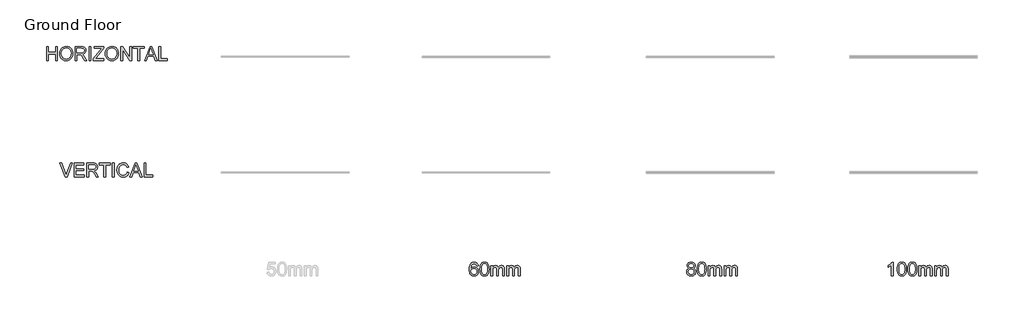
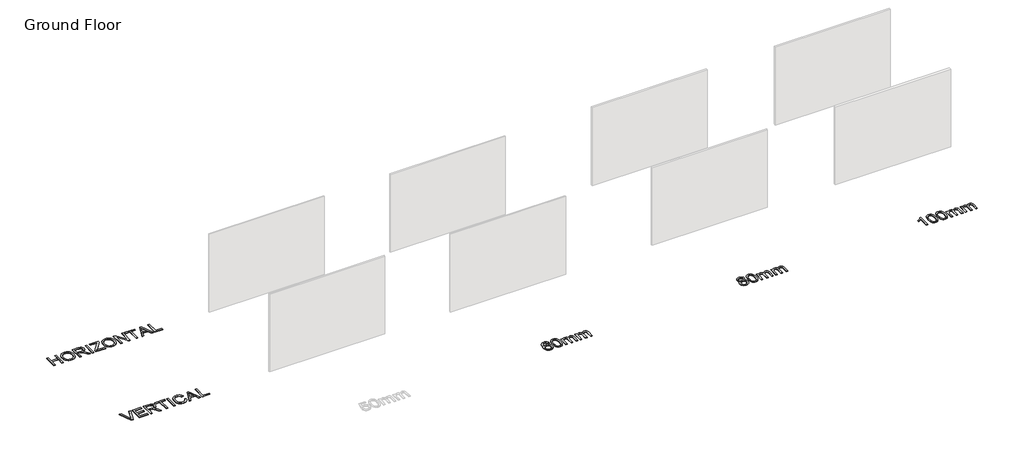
# One storey, part 14 of 14: 5 proxies.
"""IFC4 building model written with IfcOpenShell, lengths in millimetres."""

from ifc_helpers import new_model, si_unit, origin, origin_with_axes, place, context, project, spatial, polyline, outline, extrude, element, save

model = new_model("IFC4")

# Units and contexts
model_context = context("Model", 3, world=origin())
ifc_project = project(units=[si_unit("LENGTHUNIT", "METRE", prefix="MILLI")], contexts=[model_context])

# Site, building, storey
site = spatial("IfcSite", under=ifc_project)
building = spatial("IfcBuilding", under=site)
storey = spatial("IfcBuildingStorey", under=building, Name="Ground Floor", Elevation=0.0)

# Proxies
placement = place(None, origin())
element("IfcBuildingElementProxy", 1, Name="600mm Arial", ObjectType="600mm Arial", at=placement, inside=storey, context=model_context, shape_type="SweptSolid", body=[
    extrude(outline(polyline([(11472.4270523, -2153.6106576), (11432.0887915, -2133.7450298), (11416.4308141, -2121.1634656), (11403.780272, -2106.8160678), (11387.0600353, -2073.3755944), (11381.4866231, -2033.9754327), (11384.5216495, -2003.2480891), (11393.6267289, -1975.0775253), (11408.8018612, -1949.4637414), (11430.0470464, -1926.4067373), (11456.341412, -1907.35045), (11486.6640855, -1893.7388162), (11521.0150668, -1885.5718359), (11559.3943559, -1882.8495091), (11597.9575861, -1885.6362152), (11632.5660848, -1893.9963336), (11663.219852, -1907.9298641), (11689.9188878, -1927.4368069), (11711.5503491, -1950.9444664), (11727.0013929, -1976.8801471), (11736.2720192, -2005.2438489), (11739.362228, -2036.0355719), (11733.8623921, -2074.1665407), (11717.3628846, -2107.036797), (11704.9422688, -2121.2876258), (11689.6797645, -2133.8002121), (11650.6290907, -2153.6106576), (11675.3921475, -2164.1458782), (11697.0006162, -2177.5045931), (11715.4544968, -2193.6868024), (11730.7537893, -2212.692506), (11742.7605379, -2234.0986396), (11751.3367869, -2257.4821389), (11756.4825363, -2282.8430039), (11758.1977861, -2310.1812347), (11754.7948777, -2347.7603805), (11744.5861523, -2382.2125294), (11727.57161, -2413.5376813), (11703.7512508, -2441.7358362), (11674.3758735, -2465.0411606), (11640.6962769, -2481.6878209), (11602.7124609, -2491.675817), (11560.4244255, -2495.0051491), (11518.1363902, -2491.6620215), (11480.1525742, -2481.6326386), (11446.4729775, -2464.9170004), (11417.0976002, -2441.515107), (11393.277241, -2413.1192155), (11376.2626987, -2381.4215831), (11366.0539734, -2346.4222098), (11362.6510649, -2308.1210955), (11364.4352926, -2279.5366645), (11369.7879756, -2253.3802547), (11378.709114, -2229.651866), (11391.1987077, -2208.3514984), (11406.9808453, -2189.8654282), (11425.7796153, -2174.5799313), (11447.5950176, -2162.4950077), (11472.4270523, -2153.6106576)]), holes=[polyline([(11437.9932975, -2305.4723452), (11441.1386886, -2334.2958995), (11450.5748617, -2362.1997488), (11467.9940742, -2386.5351428), (11495.0885832, -2404.6533311), (11527.5357751, -2415.9105201), (11561.0130367, -2419.6629165), (11588.2546984, -2417.6901493), (11612.2957868, -2411.7718477), (11633.1363019, -2401.9080117), (11650.7762435, -2388.0986413), (11664.8109416, -2371.2450474), (11674.835726, -2352.2485409), (11680.8505966, -2331.1091217), (11682.8555535, -2307.8267899), (11680.7862173, -2284.1719777), (11674.5782086, -2262.6508809), (11664.2315275, -2243.2634998), (11649.7461739, -2226.0098342), (11631.6279857, -2211.8463774), (11610.3828005, -2201.7296225), (11586.0106183, -2195.6595696), (11558.5114391, -2193.6362186), (11531.6698491, -2195.6319785), (11507.9460589, -2201.6192579), (11487.3400686, -2211.5980571), (11469.8518783, -2225.5683758), (11455.9137492, -2242.5369328), (11445.9579427, -2261.5104467), (11439.9844588, -2282.4889175), (11437.9932975, -2305.4723452)]), polyline([(11456.8288557, -2036.1827247), (11458.4981202, -2053.4547844), (11463.5059139, -2069.0713751), (11471.8522366, -2083.0324968), (11483.5370885, -2095.3381495), (11498.4133167, -2105.381328), (11516.3337684, -2112.5550269), (11537.2984436, -2116.8592462), (11561.3073423, -2118.293986), (11584.7230313, -2116.8684433), (11605.2324525, -2112.5918151), (11622.835606, -2105.4641014), (11637.5324917, -2095.4853023), (11649.1207745, -2083.437167), (11657.3981194, -2070.1014447), (11662.3645264, -2055.4781353), (11664.0199953, -2039.5672391), (11662.3093441, -2023.0355419), (11657.1773902, -2007.8742052), (11648.6241339, -1994.0832289), (11636.6495749, -1981.662613), (11621.6215954, -1971.3941068), (11603.9080773, -1964.0594595), (11583.5090207, -1959.6586712), (11560.4244255, -1958.1917417), (11537.1604878, -1959.6264815), (11516.6648622, -1963.9307008), (11498.9375485, -1971.1043998), (11483.9785469, -1981.1475782), (11472.100557, -1993.1957136), (11463.6162785, -2006.3842831), (11458.5257114, -2020.7132868), (11456.8288557, -2036.1827247)])]), origin_with_axes(), (0.0, 0.0, 1.0), 20.0),
    extrude(outline(polyline([(11824.1222397, -2189.0744819), (11829.6588637, -2092.5974287), (11836.5796437, -2051.6843523), (11846.2687358, -2015.6549094), (11858.6847531, -1984.2147944), (11873.786309, -1957.0697016), (11891.5734035, -1934.2196312), (11912.0460365, -1915.6645831), (11935.273186, -1901.3079882), (11961.3238298, -1891.0532776), (11990.1979678, -1884.9004512), (12021.8956003, -1882.8495091), (12068.322308, -1887.7055514), (12109.8929735, -1902.2736785), (12144.657822, -1925.983673), (12170.6670791, -1958.2653181), (12190.3119776, -1998.8427022), (12205.9837506, -2047.4399138), (12216.2476583, -2109.1521184), (12219.6689609, -2189.0744819), (12214.1875191, -2284.9997121), (12207.335717, -2325.7748328), (12197.743194, -2361.7582904), (12185.4237456, -2393.212201), (12170.3911676, -2420.3986805), (12152.6454599, -2443.3177288), (12132.1866224, -2461.9693459), (12108.9318818, -2476.4225098), (12082.7984646, -2486.7461983), (12053.7863707, -2492.9404114), (12021.8956003, -2495.0051491), (11980.3985112, -2491.4182996), (11943.6103117, -2480.6577513), (11911.5310017, -2462.723504), (11884.1605813, -2437.6155578), (11857.8938068, -2392.2281167), (11839.1318251, -2335.675457), (11827.874636, -2267.9575787), (11824.1222397, -2189.0744819)]), holes=[polyline([(11899.4644723, -2188.9273291), (11901.6717642, -2254.4241198), (11908.2936401, -2307.4405138), (11919.3301, -2347.9765112), (11934.7811438, -2376.0321118), (11953.4695492, -2395.1205889), (11974.2180937, -2408.7552153), (11997.0267774, -2416.9359912), (12021.8956003, -2419.6629165), (12046.7644231, -2416.9267941), (12069.5731068, -2408.7184271), (12090.3216514, -2395.0378154), (12109.0100567, -2375.884959), (12124.4611005, -2347.7833731), (12135.4975604, -2307.2565728), (12142.1194363, -2254.3045582), (12144.3267283, -2188.9273291), (12142.1930127, -2125.1641823), (12135.791866, -2073.0812888), (12125.1232881, -2032.6786487), (12110.1872791, -2003.9562619), (12091.8115734, -1983.9342843), (12070.8239056, -1969.6328718), (12047.2242756, -1961.0520242), (12021.0126835, -1958.1917417), (11996.2726193, -1960.7117334), (11973.8502117, -1968.2717084), (11953.7454607, -1980.8716667), (11935.9583662, -1998.5116084), (11919.9922876, -2029.781578), (11908.5879457, -2071.9408546), (11901.7453406, -2124.9894383), (11899.4644723, -2188.9273291)])]), origin_with_axes(), (0.0, 0.0, 1.0), 20.0),
    extrude(outline(polyline([(12304.4289726, -2485.58737), (12304.4289726, -2042.9517534), (12379.7712052, -2042.9517534), (12379.7712052, -2115.7923885), (12402.4327361, -2082.333521), (12431.5689901, -2056.1219288), (12466.1866858, -2039.180963), (12505.2925419, -2033.5339743), (12547.1943012, -2039.2913276), (12565.0273809, -2046.4880191), (12580.7819273, -2056.5633872), (12605.8714794, -2084.2097192), (12622.2790164, -2121.0898892), (12649.7414073, -2082.7841764), (12681.0665592, -2055.422953), (12716.2544721, -2039.006219), (12755.3051458, -2033.5339743), (12785.4668709, -2035.8102442), (12811.940579, -2042.6390537), (12834.7262701, -2054.0204029), (12853.8239442, -2069.9542919), (12868.9209015, -2090.6246615), (12879.7044425, -2116.2154528), (12886.1745671, -2146.7266657), (12888.3312753, -2182.1583004), (12888.3312753, -2485.58737), (12812.9890427, -2485.58737), (12812.9890427, -2214.531916), (12811.2416032, -2176.9527702), (12805.9992848, -2151.6240948), (12796.1768355, -2134.2784587), (12780.6890035, -2120.6484308), (12760.7681935, -2111.8192629), (12737.6468101, -2108.8762069), (12716.2958588, -2110.7616022), (12696.8303027, -2116.4177879), (12679.2501419, -2125.844764), (12663.5553762, -2139.0425306), (12650.6473167, -2156.3973637), (12641.4272742, -2178.2955394), (12635.8952487, -2204.7370578), (12634.0512402, -2235.7219189), (12634.0512402, -2485.58737), (12558.7090076, -2485.58737), (12558.7090076, -2206.1442065), (12554.349606, -2163.5434714), (12548.9003539, -2146.8232348), (12541.271401, -2133.1564186), (12531.1592447, -2122.533826), (12518.2603822, -2114.9462599), (12502.5748137, -2110.3937202), (12484.102539, -2108.8762069), (12455.0766496, -2112.9229089), (12428.3316285, -2125.0630147), (12406.2587088, -2145.0022189), (12391.2491234, -2172.4462157), (12382.6406847, -2210.5220022), (12379.7712052, -2262.3565753), (12379.7712052, -2485.58737), (12304.4289726, -2485.58737)])), origin_with_axes(), (0.0, 0.0, 1.0), 20.0),
    extrude(outline(polyline([(13001.3446242, -2485.58737), (13001.3446242, -2042.9517534), (13076.6868568, -2042.9517534), (13076.6868568, -2115.7923885), (13099.3483877, -2082.333521), (13128.4846417, -2056.1219288), (13163.1023375, -2039.180963), (13202.2081936, -2033.5339743), (13244.1099528, -2039.2913276), (13261.9430325, -2046.4880191), (13277.697579, -2056.5633872), (13302.7871311, -2084.2097192), (13319.194668, -2121.0898892), (13346.657059, -2082.7841764), (13377.9822109, -2055.422953), (13413.1701237, -2039.006219), (13452.2207975, -2033.5339743), (13482.3825226, -2035.8102442), (13508.8562307, -2042.6390537), (13531.6419217, -2054.0204029), (13550.7395958, -2069.9542919), (13565.8365532, -2090.6246615), (13576.6200942, -2116.2154528), (13583.0902188, -2146.7266657), (13585.246927, -2182.1583004), (13585.246927, -2485.58737), (13509.9046943, -2485.58737), (13509.9046943, -2214.531916), (13508.1572549, -2176.9527702), (13502.9149364, -2151.6240948), (13493.0924872, -2134.2784587), (13477.6046552, -2120.6484308), (13457.6838451, -2111.8192629), (13434.5624617, -2108.8762069), (13413.2115104, -2110.7616022), (13393.7459544, -2116.4177879), (13376.1657935, -2125.844764), (13360.4710279, -2139.0425306), (13347.5629684, -2156.3973637), (13338.3429259, -2178.2955394), (13332.8109004, -2204.7370578), (13330.9668919, -2235.7219189), (13330.9668919, -2485.58737), (13255.6246593, -2485.58737), (13255.6246593, -2206.1442065), (13251.2652576, -2163.5434714), (13245.8160056, -2146.8232348), (13238.1870527, -2133.1564186), (13228.0748964, -2122.533826), (13215.1760339, -2114.9462599), (13199.4904653, -2110.3937202), (13181.0181907, -2108.8762069), (13151.9923012, -2112.9229089), (13125.2472802, -2125.0630147), (13103.1743605, -2145.0022189), (13088.1647751, -2172.4462157), (13079.5563364, -2210.5220022), (13076.6868568, -2262.3565753), (13076.6868568, -2485.58737), (13001.3446242, -2485.58737)])), origin_with_axes(), (0.0, 0.0, 1.0), 20.0),
])
element("IfcBuildingElementProxy", 2, Name="600mm Arial", ObjectType="600mm Arial", at=placement, inside=storey, context=model_context, shape_type="SweptSolid", body=[
    extrude(outline(polyline([(2240.452797, -2042.9517534), (2165.1105644, -2052.3695325), (2152.9704585, -2015.02951), (2136.5629215, -1989.5352877), (2120.3669167, -1975.8224863), (2102.3866842, -1966.0276282), (2082.622224, -1960.1507133), (2061.0735361, -1958.1917417), (2026.0511702, -1962.7534785), (1993.0889434, -1976.4386887), (1964.7804239, -2005.262243), (1941.6590405, -2044.9383162), (1932.622939, -2070.2439989), (1926.0424498, -2101.0587146), (1920.2483084, -2179.2152444), (1950.4698143, -2143.9537552), (1986.6877967, -2119.1033264), (2026.8789047, -2104.3696525), (2069.0197872, -2099.4584279), (2105.2193755, -2102.8153511), (2138.6230607, -2112.8861207), (2169.2308427, -2129.6707367), (2197.0427215, -2153.1691992), (2220.1549079, -2181.9835564), (2236.6636124, -2214.715857), (2246.5688351, -2251.3661007), (2249.870576, -2291.9342877), (2248.3162746, -2319.4012772), (2243.6533703, -2345.8841823), (2235.8818632, -2371.3830031), (2225.0017532, -2395.8977396), (2211.3993164, -2418.5132852), (2195.460829, -2438.3145336), (2177.1862908, -2455.3014848), (2156.5757021, -2469.4741386), (2134.070521, -2480.6439557), (2110.1122061, -2488.6223965), (2084.7007573, -2493.4094609), (2057.8361746, -2495.0051491), (2012.9223815, -2490.7745061), (1972.358793, -2478.0825773), (1936.1454091, -2456.9293626), (1904.2822298, -2427.314862), (1878.3051624, -2387.9882767), (1859.7501143, -2337.6988079), (1848.6170854, -2276.4464558), (1844.9060758, -2204.2312201), (1849.0263541, -2123.26959), (1861.3871891, -2054.1721543), (1881.9885809, -1996.9389129), (1895.3794855, -1972.771365), (1910.8305293, -1951.5698658), (1942.0913018, -1921.5047098), (1978.3368754, -1900.0295983), (2019.56725, -1887.1445314), (2065.7824257, -1882.8495091), (2100.4828949, -1885.5074565), (2131.8908202, -1893.4812988), (2160.0062017, -1906.7710358), (2184.8290393, -1925.3766678), (2205.6879484, -1948.6727951), (2221.9115444, -1976.0340185), (2233.4998273, -2007.4603379), (2240.452797, -2042.9517534)]), holes=[polyline([(1920.2483084, -2290.7570654), (1924.60771, -2324.1423564), (1937.6859149, -2356.0193313), (1957.9930011, -2383.4265399), (1984.0390463, -2403.4025323), (2015.4745628, -2415.5978204), (2051.9500626, -2419.6629165), (2078.1386622, -2417.5567921), (2101.6693143, -2411.2384188), (2122.542019, -2400.7077967), (2140.7567763, -2385.9649257), (2155.5318369, -2367.6076142), (2166.0854516, -2346.2336702), (2172.4176205, -2321.843094), (2174.5283434, -2294.4358853), (2172.4452116, -2268.100133), (2166.1958162, -2244.7166337), (2155.7801573, -2224.2853874), (2141.1982347, -2206.8063941), (2122.9282951, -2192.8038856), (2101.4485851, -2182.8020939), (2076.7591047, -2176.8010188), (2048.8598539, -2174.8006605), (2023.0207422, -2176.8010188), (1999.2141786, -2182.8020939), (1977.440163, -2192.8038856), (1957.6986955, -2206.8063941), (1941.3141511, -2224.0554611), (1929.6109051, -2243.7969287), (1922.5889576, -2266.0307968), (1920.2483084, -2290.7570654)])]), origin_with_axes(), (0.0, 0.0, 1.0), 20.0),
    extrude(outline(polyline([(2315.7950296, -2189.0744819), (2321.3316536, -2092.5974287), (2328.2524336, -2051.6843523), (2337.9415257, -2015.6549094), (2350.357543, -1984.2147944), (2365.4590989, -1957.0697016), (2383.2461934, -1934.2196312), (2403.7188264, -1915.6645831), (2426.9459759, -1901.3079882), (2452.9966197, -1891.0532776), (2481.8707578, -1884.9004512), (2513.5683902, -1882.8495091), (2559.995098, -1887.7055514), (2601.5657634, -1902.2736785), (2636.330612, -1925.983673), (2662.339869, -1958.2653181), (2681.9847676, -1998.8427022), (2697.6565406, -2047.4399138), (2707.9204482, -2109.1521184), (2711.3417508, -2189.0744819), (2705.8603091, -2284.9997121), (2699.0085069, -2325.7748328), (2689.4159839, -2361.7582904), (2677.0965356, -2393.212201), (2662.0639575, -2420.3986805), (2644.3182498, -2443.3177288), (2623.8594123, -2461.9693459), (2600.6046717, -2476.4225098), (2574.4712545, -2486.7461983), (2545.4591606, -2492.9404114), (2513.5683902, -2495.0051491), (2472.0713011, -2491.4182996), (2435.2831016, -2480.6577513), (2403.2037916, -2462.723504), (2375.8333712, -2437.6155578), (2349.5665967, -2392.2281167), (2330.804615, -2335.675457), (2319.5474259, -2267.9575787), (2315.7950296, -2189.0744819)]), holes=[polyline([(2391.1372622, -2188.9273291), (2393.3445542, -2254.4241198), (2399.9664301, -2307.4405138), (2411.0028899, -2347.9765112), (2426.4539337, -2376.0321118), (2445.1423391, -2395.1205889), (2465.8908836, -2408.7552153), (2488.6995673, -2416.9359912), (2513.5683902, -2419.6629165), (2538.4372131, -2416.9267941), (2561.2458968, -2408.7184271), (2581.9944413, -2395.0378154), (2600.6828466, -2375.884959), (2616.1338904, -2347.7833731), (2627.1703503, -2307.2565728), (2633.7922262, -2254.3045582), (2635.9995182, -2188.9273291), (2633.8658026, -2125.1641823), (2627.4646559, -2073.0812888), (2616.796078, -2032.6786487), (2601.860069, -2003.9562619), (2583.4843634, -1983.9342843), (2562.4966955, -1969.6328718), (2538.8970656, -1961.0520242), (2512.6854734, -1958.1917417), (2487.9454092, -1960.7117334), (2465.5230016, -1968.2717084), (2445.4182506, -1980.8716667), (2427.6311561, -1998.5116084), (2411.6650775, -2029.781578), (2400.2607357, -2071.9408546), (2393.4181306, -2124.9894383), (2391.1372622, -2188.9273291)])]), origin_with_axes(), (0.0, 0.0, 1.0), 20.0),
    extrude(outline(polyline([(2796.1017625, -2485.58737), (2796.1017625, -2042.9517534), (2871.4439951, -2042.9517534), (2871.4439951, -2115.7923885), (2894.105526, -2082.333521), (2923.24178, -2056.1219288), (2957.8594758, -2039.180963), (2996.9653319, -2033.5339743), (3038.8670911, -2039.2913276), (3056.7001708, -2046.4880191), (3072.4547173, -2056.5633872), (3097.5442693, -2084.2097192), (3113.9518063, -2121.0898892), (3141.4141973, -2082.7841764), (3172.7393491, -2055.422953), (3207.927262, -2039.006219), (3246.9779358, -2033.5339743), (3277.1396609, -2035.8102442), (3303.6133689, -2042.6390537), (3326.39906, -2054.0204029), (3345.4967341, -2069.9542919), (3360.5936915, -2090.6246615), (3371.3772324, -2116.2154528), (3377.847357, -2146.7266657), (3380.0040652, -2182.1583004), (3380.0040652, -2485.58737), (3304.6618326, -2485.58737), (3304.6618326, -2214.531916), (3302.9143931, -2176.9527702), (3297.6720747, -2151.6240948), (3287.8496254, -2134.2784587), (3272.3617934, -2120.6484308), (3252.4409834, -2111.8192629), (3229.3196, -2108.8762069), (3207.9686487, -2110.7616022), (3188.5030926, -2116.4177879), (3170.9229318, -2125.844764), (3155.2281662, -2139.0425306), (3142.3201067, -2156.3973637), (3133.1000642, -2178.2955394), (3127.5680387, -2204.7370578), (3125.7240302, -2235.7219189), (3125.7240302, -2485.58737), (3050.3817976, -2485.58737), (3050.3817976, -2206.1442065), (3046.0223959, -2163.5434714), (3040.5731439, -2146.8232348), (3032.944191, -2133.1564186), (3022.8320346, -2122.533826), (3009.9331722, -2114.9462599), (2994.2476036, -2110.3937202), (2975.7753289, -2108.8762069), (2946.7494395, -2112.9229089), (2920.0044185, -2125.0630147), (2897.9314987, -2145.0022189), (2882.9219133, -2172.4462157), (2874.3134747, -2210.5220022), (2871.4439951, -2262.3565753), (2871.4439951, -2485.58737), (2796.1017625, -2485.58737)])), origin_with_axes(), (0.0, 0.0, 1.0), 20.0),
    extrude(outline(polyline([(3493.0174141, -2485.58737), (3493.0174141, -2042.9517534), (3568.3596468, -2042.9517534), (3568.3596468, -2115.7923885), (3591.0211777, -2082.333521), (3620.1574317, -2056.1219288), (3654.7751274, -2039.180963), (3693.8809835, -2033.5339743), (3735.7827428, -2039.2913276), (3753.6158225, -2046.4880191), (3769.3703689, -2056.5633872), (3794.459921, -2084.2097192), (3810.867458, -2121.0898892), (3838.3298489, -2082.7841764), (3869.6550008, -2055.422953), (3904.8429136, -2039.006219), (3943.8935874, -2033.5339743), (3974.0553125, -2035.8102442), (4000.5290206, -2042.6390537), (4023.3147117, -2054.0204029), (4042.4123857, -2069.9542919), (4057.5093431, -2090.6246615), (4068.2928841, -2116.2154528), (4074.7630087, -2146.7266657), (4076.9197169, -2182.1583004), (4076.9197169, -2485.58737), (4001.5774843, -2485.58737), (4001.5774843, -2214.531916), (3999.8300448, -2176.9527702), (3994.5877264, -2151.6240948), (3984.7652771, -2134.2784587), (3969.2774451, -2120.6484308), (3949.3566351, -2111.8192629), (3926.2352517, -2108.8762069), (3904.8843004, -2110.7616022), (3885.4187443, -2116.4177879), (3867.8385835, -2125.844764), (3852.1438178, -2139.0425306), (3839.2357583, -2156.3973637), (3830.0157158, -2178.2955394), (3824.4836903, -2204.7370578), (3822.6396818, -2235.7219189), (3822.6396818, -2485.58737), (3747.2974492, -2485.58737), (3747.2974492, -2206.1442065), (3742.9380476, -2163.5434714), (3737.4887955, -2146.8232348), (3729.8598426, -2133.1564186), (3719.7476863, -2122.533826), (3706.8488238, -2114.9462599), (3691.1632553, -2110.3937202), (3672.6909806, -2108.8762069), (3643.6650912, -2112.9229089), (3616.9200701, -2125.0630147), (3594.8471504, -2145.0022189), (3579.837565, -2172.4462157), (3571.2291263, -2210.5220022), (3568.3596468, -2262.3565753), (3568.3596468, -2485.58737), (3493.0174141, -2485.58737)])), origin_with_axes(), (0.0, 0.0, 1.0), 20.0),
])
element("IfcBuildingElementProxy", 3, Name="600mm Arial", ObjectType="600mm Arial", at=placement, inside=storey, context=model_context, shape_type="SweptSolid", body=[
    extrude(outline(polyline([(20401.7887855, -2485.58737), (20326.4465529, -2485.58737), (20326.4465529, -2015.8756386), (20294.9926423, -2041.3146785), (20255.0774458, -2066.7169303), (20213.1756866, -2088.9186087), (20175.7620877, -2104.7559286), (20175.7620877, -2033.5339743), (20234.9359066, -2001.3442998), (20286.2002626, -1963.0477841), (20326.6120998, -1922.3232472), (20353.2283621, -1882.8495091), (20401.7887855, -1882.8495091), (20401.7887855, -2485.58737)])), origin_with_axes(), (0.0, 0.0, 1.0), 20.0),
    extrude(outline(polyline([(20580.726588, -2189.0744819), (20586.263212, -2092.5974287), (20593.183992, -2051.6843523), (20602.8730841, -2015.6549094), (20615.2891014, -1984.2147944), (20630.3906573, -1957.0697016), (20648.1777518, -1934.2196312), (20668.6503848, -1915.6645831), (20691.8775343, -1901.3079882), (20717.9281781, -1891.0532776), (20746.8023162, -1884.9004512), (20778.4999486, -1882.8495091), (20824.9266564, -1887.7055514), (20866.4973218, -1902.2736785), (20901.2621704, -1925.983673), (20927.2714274, -1958.2653181), (20946.916326, -1998.8427022), (20962.588099, -2047.4399138), (20972.8520066, -2109.1521184), (20976.2733092, -2189.0744819), (20970.7918674, -2284.9997121), (20963.9400653, -2325.7748328), (20954.3475423, -2361.7582904), (20942.0280939, -2393.212201), (20926.9955159, -2420.3986805), (20909.2498082, -2443.3177288), (20888.7909707, -2461.9693459), (20865.5362301, -2476.4225098), (20839.4028129, -2486.7461983), (20810.390719, -2492.9404114), (20778.4999486, -2495.0051491), (20737.0028595, -2491.4182996), (20700.21466, -2480.6577513), (20668.13535, -2462.723504), (20640.7649296, -2437.6155578), (20614.4981551, -2392.2281167), (20595.7361734, -2335.675457), (20584.4789843, -2267.9575787), (20580.726588, -2189.0744819)]), holes=[polyline([(20656.0688206, -2188.9273291), (20658.2761125, -2254.4241198), (20664.8979885, -2307.4405138), (20675.9344483, -2347.9765112), (20691.3854921, -2376.0321118), (20710.0738975, -2395.1205889), (20730.822442, -2408.7552153), (20753.6311257, -2416.9359912), (20778.4999486, -2419.6629165), (20803.3687714, -2416.9267941), (20826.1774551, -2408.7184271), (20846.9259997, -2395.0378154), (20865.614405, -2375.884959), (20881.0654488, -2347.7833731), (20892.1019087, -2307.2565728), (20898.7237846, -2254.3045582), (20900.9310766, -2188.9273291), (20898.797361, -2125.1641823), (20892.3962143, -2073.0812888), (20881.7276364, -2032.6786487), (20866.7916274, -2003.9562619), (20848.4159217, -1983.9342843), (20827.4282539, -1969.6328718), (20803.8286239, -1961.0520242), (20777.6170318, -1958.1917417), (20752.8769676, -1960.7117334), (20730.45456, -1968.2717084), (20710.349809, -1980.8716667), (20692.5627145, -1998.5116084), (20676.5966359, -2029.781578), (20665.1922941, -2071.9408546), (20658.3496889, -2124.9894383), (20656.0688206, -2188.9273291)])]), origin_with_axes(), (0.0, 0.0, 1.0), 20.0),
    extrude(outline(polyline([(21042.1977627, -2189.0744819), (21047.7343867, -2092.5974287), (21054.6551668, -2051.6843523), (21064.3442588, -2015.6549094), (21076.7602762, -1984.2147944), (21091.8618321, -1957.0697016), (21109.6489265, -1934.2196312), (21130.1215596, -1915.6645831), (21153.348709, -1901.3079882), (21179.3993528, -1891.0532776), (21208.2734909, -1884.9004512), (21239.9711233, -1882.8495091), (21286.3978311, -1887.7055514), (21327.9684966, -1902.2736785), (21362.7333451, -1925.983673), (21388.7426022, -1958.2653181), (21408.3875007, -1998.8427022), (21424.0592737, -2047.4399138), (21434.3231814, -2109.1521184), (21437.7444839, -2189.0744819), (21432.2630422, -2284.9997121), (21425.41124, -2325.7748328), (21415.818717, -2361.7582904), (21403.4992687, -2393.212201), (21388.4666907, -2420.3986805), (21370.7209829, -2443.3177288), (21350.2621455, -2461.9693459), (21327.0074049, -2476.4225098), (21300.8739876, -2486.7461983), (21271.8618938, -2492.9404114), (21239.9711233, -2495.0051491), (21198.4740343, -2491.4182996), (21161.6858347, -2480.6577513), (21129.6065248, -2462.723504), (21102.2361043, -2437.6155578), (21075.9693299, -2392.2281167), (21057.2073481, -2335.675457), (21045.9501591, -2267.9575787), (21042.1977627, -2189.0744819)]), holes=[polyline([(21117.5399953, -2188.9273291), (21119.7472873, -2254.4241198), (21126.3691632, -2307.4405138), (21137.4056231, -2347.9765112), (21152.8566669, -2376.0321118), (21171.5450722, -2395.1205889), (21192.2936167, -2408.7552153), (21215.1023004, -2416.9359912), (21239.9711233, -2419.6629165), (21264.8399462, -2416.9267941), (21287.6486299, -2408.7184271), (21308.3971744, -2395.0378154), (21327.0855798, -2375.884959), (21342.5366236, -2347.7833731), (21353.5730834, -2307.2565728), (21360.1949593, -2254.3045582), (21362.4022513, -2188.9273291), (21360.2685357, -2125.1641823), (21353.867389, -2073.0812888), (21343.1988112, -2032.6786487), (21328.2628022, -2003.9562619), (21309.8870965, -1983.9342843), (21288.8994287, -1969.6328718), (21265.2997987, -1961.0520242), (21239.0882065, -1958.1917417), (21214.3481424, -1960.7117334), (21191.9257347, -1968.2717084), (21171.8209837, -1980.8716667), (21154.0338892, -1998.5116084), (21138.0678107, -2029.781578), (21126.6634688, -2071.9408546), (21119.8208637, -2124.9894383), (21117.5399953, -2188.9273291)])]), origin_with_axes(), (0.0, 0.0, 1.0), 20.0),
    extrude(outline(polyline([(21522.5044956, -2485.58737), (21522.5044956, -2042.9517534), (21597.8467282, -2042.9517534), (21597.8467282, -2115.7923885), (21620.5082591, -2082.333521), (21649.6445131, -2056.1219288), (21684.2622089, -2039.180963), (21723.368065, -2033.5339743), (21765.2698242, -2039.2913276), (21783.1029039, -2046.4880191), (21798.8574504, -2056.5633872), (21823.9470025, -2084.2097192), (21840.3545394, -2121.0898892), (21867.8169304, -2082.7841764), (21899.1420823, -2055.422953), (21934.3299951, -2039.006219), (21973.3806689, -2033.5339743), (22003.542394, -2035.8102442), (22030.0161021, -2042.6390537), (22052.8017931, -2054.0204029), (22071.8994672, -2069.9542919), (22086.9964246, -2090.6246615), (22097.7799656, -2116.2154528), (22104.2500902, -2146.7266657), (22106.4067984, -2182.1583004), (22106.4067984, -2485.58737), (22031.0645657, -2485.58737), (22031.0645657, -2214.531916), (22029.3171263, -2176.9527702), (22024.0748078, -2151.6240948), (22014.2523586, -2134.2784587), (21998.7645266, -2120.6484308), (21978.8437165, -2111.8192629), (21955.7223331, -2108.8762069), (21934.3713818, -2110.7616022), (21914.9058258, -2116.4177879), (21897.3256649, -2125.844764), (21881.6308993, -2139.0425306), (21868.7228398, -2156.3973637), (21859.5027973, -2178.2955394), (21853.9707718, -2204.7370578), (21852.1267633, -2235.7219189), (21852.1267633, -2485.58737), (21776.7845307, -2485.58737), (21776.7845307, -2206.1442065), (21772.425129, -2163.5434714), (21766.975877, -2146.8232348), (21759.3469241, -2133.1564186), (21749.2347678, -2122.533826), (21736.3359053, -2114.9462599), (21720.6503367, -2110.3937202), (21702.1780621, -2108.8762069), (21673.1521726, -2112.9229089), (21646.4071516, -2125.0630147), (21624.3342319, -2145.0022189), (21609.3246465, -2172.4462157), (21600.7162078, -2210.5220022), (21597.8467282, -2262.3565753), (21597.8467282, -2485.58737), (21522.5044956, -2485.58737)])), origin_with_axes(), (0.0, 0.0, 1.0), 20.0),
    extrude(outline(polyline([(22219.4201473, -2485.58737), (22219.4201473, -2042.9517534), (22294.7623799, -2042.9517534), (22294.7623799, -2115.7923885), (22317.4239108, -2082.333521), (22346.5601648, -2056.1219288), (22381.1778606, -2039.180963), (22420.2837166, -2033.5339743), (22462.1854759, -2039.2913276), (22480.0185556, -2046.4880191), (22495.7731021, -2056.5633872), (22520.8626541, -2084.2097192), (22537.2701911, -2121.0898892), (22564.732582, -2082.7841764), (22596.0577339, -2055.422953), (22631.2456468, -2039.006219), (22670.2963206, -2033.5339743), (22700.4580456, -2035.8102442), (22726.9317537, -2042.6390537), (22749.7174448, -2054.0204029), (22768.8151189, -2069.9542919), (22783.9120762, -2090.6246615), (22794.6956172, -2116.2154528), (22801.1657418, -2146.7266657), (22803.32245, -2182.1583004), (22803.32245, -2485.58737), (22727.9802174, -2485.58737), (22727.9802174, -2214.531916), (22726.2327779, -2176.9527702), (22720.9904595, -2151.6240948), (22711.1680102, -2134.2784587), (22695.6801782, -2120.6484308), (22675.7593682, -2111.8192629), (22652.6379848, -2108.8762069), (22631.2870335, -2110.7616022), (22611.8214774, -2116.4177879), (22594.2413166, -2125.844764), (22578.546551, -2139.0425306), (22565.6384915, -2156.3973637), (22556.418449, -2178.2955394), (22550.8864235, -2204.7370578), (22549.042415, -2235.7219189), (22549.042415, -2485.58737), (22473.7001823, -2485.58737), (22473.7001823, -2206.1442065), (22469.3407807, -2163.5434714), (22463.8915286, -2146.8232348), (22456.2625758, -2133.1564186), (22446.1504194, -2122.533826), (22433.251557, -2114.9462599), (22417.5659884, -2110.3937202), (22399.0937137, -2108.8762069), (22370.0678243, -2112.9229089), (22343.3228033, -2125.0630147), (22321.2498835, -2145.0022189), (22306.2402981, -2172.4462157), (22297.6318594, -2210.5220022), (22294.7623799, -2262.3565753), (22294.7623799, -2485.58737), (22219.4201473, -2485.58737)])), origin_with_axes(), (0.0, 0.0, 1.0), 20.0),
])
element("IfcBuildingElementProxy", 4, Name="600mm Arial", ObjectType="600mm Arial", at=placement, inside=storey, context=model_context, shape_type="SweptSolid", body=[
    extrude(outline(polyline([(-15825.7847773, 1851.9959966), (-16065.6438382, 2454.7338575), (-15985.0041048, 2454.7338575), (-15824.4604021, 2020.4859504), (-15791.9396338, 1922.6293397), (-15759.8603238, 2020.4859504), (-15598.8751627, 2454.7338575), (-15518.2354294, 2454.7338575), (-15747.9409471, 1851.9959966), (-15825.7847773, 1851.9959966)])), origin_with_axes(), (0.0, 0.0, 1.0), 20.0),
    extrude(outline(polyline([(-15448.1906975, 1851.9959966), (-15448.1906975, 2454.7338575), (-15014.97286, 2454.7338575), (-15014.97286, 2379.3916249), (-15372.8484649, 2379.3916249), (-15372.8484649, 2200.4538225), (-15033.8084181, 2200.4538225), (-15033.8084181, 2125.1115898), (-15372.8484649, 2125.1115898), (-15372.8484649, 1927.3382292), (-15005.5550809, 1927.3382292), (-15005.5550809, 1851.9959966), (-15448.1906975, 1851.9959966)])), origin_with_axes(), (0.0, 0.0, 1.0), 20.0),
    extrude(outline(polyline([(-14892.541732, 1851.9959966), (-14892.541732, 2454.7338575), (-14632.8170434, 2454.7338575), (-14563.0114348, 2450.6687615), (-14512.2253253, 2438.4734733), (-14492.6264121, 2428.7797828), (-14475.106032, 2415.9590952), (-14459.6641853, 2400.0114107), (-14446.3008718, 2380.9367293), (-14435.5173308, 2359.7605219), (-14427.8148016, 2337.5082598), (-14423.193284, 2314.1799427), (-14421.6527781, 2289.7755709), (-14424.2049595, 2258.818301), (-14431.8615035, 2230.3994169), (-14444.6224102, 2204.5189185), (-14462.4876796, 2181.1768059), (-14485.6872379, 2161.1180401), (-14514.4510114, 2145.0875822), (-14548.7790001, 2133.0854321), (-14588.6712039, 2125.1115898), (-14563.8391693, 2108.8879939), (-14545.8497397, 2092.8851271), (-14514.9844403, 2056.2808685), (-14484.7813285, 2015.3356025), (-14384.2759674, 1851.9959966), (-14471.8318823, 1851.9959966), (-14550.2643237, 1976.9287222), (-14606.9181509, 2059.6285947), (-14627.9793951, 2083.7432595), (-14646.7229828, 2098.6976626), (-14682.5546891, 2113.0450604), (-14726.2590701, 2115.6938108), (-14817.1994994, 2115.6938108), (-14817.1994994, 1851.9959966), (-14892.541732, 1851.9959966)]), holes=[polyline([(-14817.1994994, 2191.0360434), (-14648.5623928, 2191.0360434), (-14600.1307281, 2193.7031878), (-14562.5515823, 2201.7046212), (-14534.2614569, 2215.5737725), (-14513.6968533, 2235.8440704), (-14501.1704714, 2260.3634054), (-14496.9950107, 2286.9796677), (-14498.986172, 2306.2474872), (-14504.9596559, 2323.731079), (-14514.9154624, 2339.4304432), (-14528.8535915, 2353.3455796), (-14547.09594, 2364.7407245), (-14569.9644045, 2372.8801136), (-14597.4589851, 2377.7637471), (-14629.5796818, 2379.3916249), (-14817.1994994, 2379.3916249), (-14817.1994994, 2191.0360434)])]), origin_with_axes(), (0.0, 0.0, 1.0), 20.0),
    extrude(outline(polyline([(-14139.1194058, 1851.9959966), (-14139.1194058, 2379.3916249), (-14336.8927664, 2379.3916249), (-14336.8927664, 2454.7338575), (-13866.0038126, 2454.7338575), (-13866.0038126, 2379.3916249), (-14063.7771732, 2379.3916249), (-14063.7771732, 1851.9959966), (-14139.1194058, 1851.9959966)])), origin_with_axes(), (0.0, 0.0, 1.0), 20.0),
    extrude(outline(polyline([(-13771.8260219, 1851.9959966), (-13771.8260219, 2454.7338575), (-13696.4837892, 2454.7338575), (-13696.4837892, 1851.9959966), (-13771.8260219, 1851.9959966)])), origin_with_axes(), (0.0, 0.0, 1.0), 20.0),
    extrude(outline(polyline([(-13121.9992656, 2066.2504706), (-13046.657033, 2046.8263013), (-13061.5654508, 1999.9719307), (-13081.4218815, 1959.0312631), (-13106.226325, 1924.0042987), (-13135.9787814, 1894.8910373), (-13170.0078659, 1872.0041786), (-13207.6421941, 1855.6564225), (-13248.8817657, 1845.8477688), (-13293.7265809, 1842.5782175), (-13339.6704436, 1845.052224), (-13381.1169489, 1852.4742432), (-13418.0660968, 1864.8442753), (-13450.5178873, 1882.1623202), (-13478.9183773, 1904.1708606), (-13503.7136238, 1930.612379), (-13524.9036267, 1961.4868754), (-13542.4883861, 1996.7943499), (-13556.2977565, 2035.0080922), (-13566.1615925, 2074.6013919), (-13572.0798941, 2115.5742491), (-13574.0526613, 2157.9266638), (-13571.8223767, 2203.3692873), (-13565.1315229, 2245.8136725), (-13553.9800999, 2285.2598194), (-13538.3681077, 2321.7077281), (-13518.6450343, 2354.5549917), (-13495.1603674, 2383.1992036), (-13467.9141071, 2407.6403636), (-13436.9062534, 2427.8784719), (-13403.1898686, 2443.7479814), (-13367.8180148, 2455.0833454), (-13330.7906919, 2461.8845638), (-13292.1079001, 2464.1516366), (-13249.0151229, 2461.2177777), (-13209.4999981, 2452.416201), (-13173.5625257, 2437.7469064), (-13141.2027057, 2417.209894), (-13112.953967, 2391.3477898), (-13089.3497385, 2360.7032196), (-13070.3900202, 2325.2761834), (-13056.074812, 2285.0666813), (-13131.4170447, 2267.11404), (-13143.281239, 2296.7423362), (-13157.5366663, 2322.057216), (-13174.1833266, 2343.0586794), (-13193.2212198, 2359.7467264), (-13214.7607107, 2372.4616478), (-13238.9121636, 2381.5437346), (-13265.6755788, 2386.9929866), (-13295.0509561, 2388.809404), (-13328.8501144, 2386.7952501), (-13359.7613991, 2380.7527883), (-13387.78481, 2370.6820187), (-13412.9203474, 2356.5829412), (-13434.8507128, 2339.0901523), (-13453.2586081, 2318.8382485), (-13468.1440334, 2295.8272297), (-13479.5069885, 2270.0570959), (-13493.9095686, 2214.9115849), (-13498.7104286, 2158.0738166), (-13493.0266518, 2088.4705431), (-13485.9219308, 2057.2005735), (-13475.9753213, 2028.2850487), (-13463.0258751, 2002.2987843), (-13446.9126437, 1979.8165958), (-13427.6356272, 1960.8384834), (-13405.1948255, 1945.364447), (-13380.680089, 1933.3576984), (-13355.1812682, 1924.7814494), (-13328.6983631, 1919.6357), (-13301.2313736, 1917.9204502), (-13268.4760805, 1920.2565008), (-13238.3419466, 1927.2646528), (-13210.8289718, 1938.9449062), (-13185.9371563, 1955.2972609), (-13164.2551112, 1976.2481405), (-13146.3714478, 2001.7239687), (-13132.2861659, 2031.7247454), (-13121.9992656, 2066.2504706)])), origin_with_axes(), (0.0, 0.0, 1.0), 20.0),
    extrude(outline(polyline([(-13013.2533478, 1851.9959966), (-12772.658523, 2454.7338575), (-12708.499903, 2454.7338575), (-12467.9050782, 1851.9959966), (-12547.5147419, 1851.9959966), (-12616.5294042, 2040.3515782), (-12864.7761745, 2040.3515782), (-12933.643684, 1851.9959966), (-13013.2533478, 1851.9959966)]), holes=[polyline([(-12837.1114485, 2115.6938108), (-12644.0469774, 2115.6938108), (-12698.3463599, 2263.8766784), (-12740.579213, 2379.3916249), (-12778.1031765, 2276.8261247), (-12837.1114485, 2115.6938108)])]), origin_with_axes(), (0.0, 0.0, 1.0), 20.0),
    extrude(outline(polyline([(-12387.4124976, 1851.9959966), (-12387.4124976, 2454.7338575), (-12312.070265, 2454.7338575), (-12312.070265, 1927.3382292), (-12010.7013345, 1927.3382292), (-12010.7013345, 1851.9959966), (-12387.4124976, 1851.9959966)])), origin_with_axes(), (0.0, 0.0, 1.0), 20.0),
])
element("IfcBuildingElementProxy", 5, Name="600mm Arial", ObjectType="600mm Arial", at=placement, inside=storey, context=model_context, shape_type="SweptSolid", body=[
    extrude(outline(polyline([(-16653.6664193, 6956.7959966), (-16653.6664193, 7559.5338575), (-16578.3241867, 7559.5338575), (-16578.3241867, 7314.6716015), (-16258.1196981, 7314.6716015), (-16258.1196981, 7559.5338575), (-16182.7774654, 7559.5338575), (-16182.7774654, 6956.7959966), (-16258.1196981, 6956.7959966), (-16258.1196981, 7239.3293689), (-16578.3241867, 7239.3293689), (-16578.3241867, 6956.7959966), (-16653.6664193, 6956.7959966)])), origin_with_axes(), (0.0, 0.0, 1.0), 20.0),
    extrude(outline(polyline([(-16079.1818956, 7250.218676), (-16074.1603064, 7320.9163984), (-16059.0955387, 7383.5023228), (-16033.9875925, 7437.9764493), (-16017.6674275, 7462.1715882), (-15998.8364679, 7484.3387777), (-15955.7482892, 7521.3569035), (-15906.8291809, 7547.7984219), (-15852.0791429, 7563.6633329), (-15791.4981754, 7568.9516366), (-15750.9483825, 7566.4684331), (-15712.4403346, 7559.0188227), (-15675.9740318, 7546.6028054), (-15641.5494741, 7529.2203811), (-15610.1323518, 7507.3957818), (-15582.6883549, 7481.6532391), (-15559.2174836, 7451.9927533), (-15539.7197379, 7418.4143242), (-15524.3974528, 7381.681307), (-15513.4529634, 7342.5570568), (-15506.8862698, 7301.0415736), (-15504.6973719, 7257.1348575), (-15507.0012329, 7212.6487272), (-15513.9128159, 7170.572224), (-15525.4321209, 7130.9053479), (-15541.5591479, 7093.6480988), (-15561.9122192, 7059.7845612), (-15586.1096575, 7030.2988193), (-15614.1514626, 7005.1908731), (-15646.0376345, 6984.4607227), (-15680.512776, 6968.2371267), (-15716.3214897, 6956.6488438), (-15753.4637756, 6949.6958741), (-15791.9396338, 6947.3782175), (-15833.1975995, 6949.9395959), (-15872.2114851, 6957.6237311), (-15908.9812905, 6970.4306231), (-15943.5070158, 6988.3602718), (-15974.88735, 7010.7183001), (-16002.2209822, 7036.8103306), (-16025.5079125, 7066.6363633), (-16044.7481409, 7100.1963983), (-16059.8129086, 7136.1430678), (-16070.5734569, 7173.1290039), (-16077.0297859, 7211.1542066), (-16079.1818956, 7250.218676)]), holes=[polyline([(-16003.839663, 7249.482912), (-16000.0734711, 7199.5337341), (-15988.7748953, 7155.1947566), (-15969.9439357, 7116.4659796), (-15943.5805922, 7083.347403), (-15911.5334719, 7056.8231111), (-15875.6511818, 7037.8771884), (-15835.9337219, 7026.5096347), (-15792.3810922, 7022.7204502), (-15748.0835014, 7026.5464229), (-15707.896992, 7038.0243412), (-15671.8215638, 7057.1542049), (-15639.857217, 7083.9360142), (-15613.6870115, 7117.7535666), (-15594.9940077, 7157.9906598), (-15583.7782053, 7204.6472938), (-15580.0396046, 7257.7234687), (-15581.6398912, 7292.2032087), (-15586.4407513, 7324.4204744), (-15594.4421847, 7354.3752659), (-15605.6441914, 7382.067583), (-15619.9226114, 7407.1341425), (-15637.1532843, 7429.2116607), (-15657.3362103, 7448.3001378), (-15680.4713892, 7464.3995736), (-15705.8414513, 7477.1788744), (-15732.7290266, 7486.3069464), (-15761.1341152, 7491.7837896), (-15791.056717, 7493.609404), (-15833.096432, 7490.0915324), (-15872.1011205, 7479.5379177), (-15908.0707826, 7461.9485598), (-15941.0054182, 7437.3234587), (-15968.4954003, 7404.4761951), (-15988.1311018, 7362.2203494), (-15999.9125227, 7310.5559217), (-16003.839663, 7249.482912)])]), origin_with_axes(), (0.0, 0.0, 1.0), 20.0),
    extrude(outline(polyline([(-15401.1018021, 6956.7959966), (-15401.1018021, 7559.5338575), (-15141.3771135, 7559.5338575), (-15071.5715049, 7555.4687615), (-15020.7853955, 7543.2734733), (-15001.1864822, 7533.5797828), (-14983.6661022, 7520.7590952), (-14968.2242554, 7504.8114107), (-14954.8609419, 7485.7367293), (-14944.077401, 7464.5605219), (-14936.3748717, 7442.3082598), (-14931.7533541, 7418.9799427), (-14930.2128483, 7394.5755709), (-14932.7650296, 7363.618301), (-14940.4215736, 7335.1994169), (-14953.1824803, 7309.3189185), (-14971.0477497, 7285.9768059), (-14994.2473081, 7265.9180401), (-15023.0110816, 7249.8875822), (-15057.3390702, 7237.8854321), (-15097.2312741, 7229.9115898), (-15072.3992394, 7213.6879939), (-15054.4098098, 7197.6851271), (-15023.5445104, 7161.0808685), (-14993.3413986, 7120.1356025), (-14892.8360376, 6956.7959966), (-14980.3919524, 6956.7959966), (-15058.8243938, 7081.7287222), (-15115.478221, 7164.4285947), (-15136.5394653, 7188.5432595), (-15155.2830529, 7203.4976626), (-15191.1147592, 7217.8450604), (-15234.8191403, 7220.4938108), (-15325.7595695, 7220.4938108), (-15325.7595695, 6956.7959966), (-15401.1018021, 6956.7959966)]), holes=[polyline([(-15325.7595695, 7295.8360434), (-15157.1224629, 7295.8360434), (-15108.6907982, 7298.5031878), (-15071.1116524, 7306.5046212), (-15042.821527, 7320.3737725), (-15022.2569235, 7340.6440704), (-15009.7305415, 7365.1634054), (-15005.5550809, 7391.7796677), (-15007.5462422, 7411.0474872), (-15013.5197261, 7428.531079), (-15023.4755326, 7444.2304432), (-15037.4136617, 7458.1455796), (-15055.6560101, 7469.5407245), (-15078.5244746, 7477.6801136), (-15106.0190552, 7482.5637471), (-15138.1397519, 7484.1916249), (-15325.7595695, 7484.1916249), (-15325.7595695, 7295.8360434)])]), origin_with_axes(), (0.0, 0.0, 1.0), 20.0),
    extrude(outline(polyline([(-14788.9461621, 6956.7959966), (-14788.9461621, 7559.5338575), (-14713.6039295, 7559.5338575), (-14713.6039295, 6956.7959966), (-14788.9461621, 6956.7959966)])), origin_with_axes(), (0.0, 0.0, 1.0), 20.0),
    extrude(outline(polyline([(-14610.0083597, 6956.7959966), (-14610.0083597, 7034.9341324), (-14301.7232477, 7412.3810594), (-14243.1564341, 7484.1916249), (-14572.3372434, 7484.1916249), (-14572.3372434, 7559.5338575), (-14148.5371849, 7559.5338575), (-14148.5371849, 7484.1916249), (-14485.9585509, 7071.1337207), (-14517.7435553, 7032.1382292), (-14139.1194058, 7032.1382292), (-14139.1194058, 6956.7959966), (-14610.0083597, 6956.7959966)])), origin_with_axes(), (0.0, 0.0, 1.0), 20.0),
    extrude(outline(polyline([(-14082.6127314, 7250.218676), (-14077.5911421, 7320.9163984), (-14062.5263744, 7383.5023228), (-14037.4184283, 7437.9764493), (-14021.0982633, 7462.1715882), (-14002.2673036, 7484.3387777), (-13959.179125, 7521.3569035), (-13910.2600166, 7547.7984219), (-13855.5099787, 7563.6633329), (-13794.9290112, 7568.9516366), (-13754.3792182, 7566.4684331), (-13715.8711704, 7559.0188227), (-13679.4048676, 7546.6028054), (-13644.9803099, 7529.2203811), (-13613.5631875, 7507.3957818), (-13586.1191907, 7481.6532391), (-13562.6483194, 7451.9927533), (-13543.1505737, 7418.4143242), (-13527.8282886, 7381.681307), (-13516.8837992, 7342.5570568), (-13510.3171056, 7301.0415736), (-13508.1282077, 7257.1348575), (-13510.4320687, 7212.6487272), (-13517.3436517, 7170.572224), (-13528.8629567, 7130.9053479), (-13544.9899836, 7093.6480988), (-13565.343055, 7059.7845612), (-13589.5404932, 7030.2988193), (-13617.5822983, 7005.1908731), (-13649.4684703, 6984.4607227), (-13683.9436117, 6968.2371267), (-13719.7523254, 6956.6488438), (-13756.8946114, 6949.6958741), (-13795.3704695, 6947.3782175), (-13836.6284353, 6949.9395959), (-13875.6423209, 6957.6237311), (-13912.4121263, 6970.4306231), (-13946.9378516, 6988.3602718), (-13978.3181857, 7010.7183001), (-14005.651818, 7036.8103306), (-14028.9387483, 7066.6363633), (-14048.1789766, 7100.1963983), (-14063.2437443, 7136.1430678), (-14074.0042927, 7173.1290039), (-14080.4606217, 7211.1542066), (-14082.6127314, 7250.218676)]), holes=[polyline([(-14007.2704988, 7249.482912), (-14003.5043068, 7199.5337341), (-13992.2057311, 7155.1947566), (-13973.3747714, 7116.4659796), (-13947.011428, 7083.347403), (-13914.9643077, 7056.8231111), (-13879.0820176, 7037.8771884), (-13839.3645576, 7026.5096347), (-13795.8119279, 7022.7204502), (-13751.5143372, 7026.5464229), (-13711.3278278, 7038.0243412), (-13675.2523996, 7057.1542049), (-13643.2880527, 7083.9360142), (-13617.1178473, 7117.7535666), (-13598.4248434, 7157.9906598), (-13587.2090411, 7204.6472938), (-13583.4704403, 7257.7234687), (-13585.070727, 7292.2032087), (-13589.871587, 7324.4204744), (-13597.8730204, 7354.3752659), (-13609.0750272, 7382.067583), (-13623.3534471, 7407.1341425), (-13640.5841201, 7429.2116607), (-13660.767046, 7448.3001378), (-13683.902225, 7464.3995736), (-13709.2722871, 7477.1788744), (-13736.1598624, 7486.3069464), (-13764.564951, 7491.7837896), (-13794.4875528, 7493.609404), (-13836.5272678, 7490.0915324), (-13875.5319563, 7479.5379177), (-13911.5016184, 7461.9485598), (-13944.436254, 7437.3234587), (-13971.9262361, 7404.4761951), (-13991.5619376, 7362.2203494), (-14003.3433585, 7310.5559217), (-14007.2704988, 7249.482912)])]), origin_with_axes(), (0.0, 0.0, 1.0), 20.0),
    extrude(outline(polyline([(-13404.5326379, 6956.7959966), (-13404.5326379, 7559.5338575), (-13323.8929045, 7559.5338575), (-13008.9859167, 7082.0230278), (-13008.9859167, 7559.5338575), (-12933.643684, 7559.5338575), (-12933.643684, 6956.7959966), (-13014.2834174, 6956.7959966), (-13329.1904053, 7434.4539792), (-13329.1904053, 6956.7959966), (-13404.5326379, 6956.7959966)])), origin_with_axes(), (0.0, 0.0, 1.0), 20.0),
    extrude(outline(polyline([(-12651.1103118, 6956.7959966), (-12651.1103118, 7484.1916249), (-12848.8836724, 7484.1916249), (-12848.8836724, 7559.5338575), (-12377.9947185, 7559.5338575), (-12377.9947185, 7484.1916249), (-12575.7680791, 7484.1916249), (-12575.7680791, 6956.7959966), (-12651.1103118, 6956.7959966)])), origin_with_axes(), (0.0, 0.0, 1.0), 20.0),
    extrude(outline(polyline([(-12363.4265915, 6956.7959966), (-12122.8317667, 7559.5338575), (-12058.6731467, 7559.5338575), (-11818.0783219, 6956.7959966), (-11897.6879856, 6956.7959966), (-11966.7026479, 7145.1515782), (-12214.9494183, 7145.1515782), (-12283.8169278, 6956.7959966), (-12363.4265915, 6956.7959966)]), holes=[polyline([(-12187.2846922, 7220.4938108), (-11994.2202212, 7220.4938108), (-12048.5196037, 7368.6766784), (-12090.7524567, 7484.1916249), (-12128.2764202, 7381.6261247), (-12187.2846922, 7220.4938108)])]), origin_with_axes(), (0.0, 0.0, 1.0), 20.0),
    extrude(outline(polyline([(-11737.5857413, 6956.7959966), (-11737.5857413, 7559.5338575), (-11662.2435087, 7559.5338575), (-11662.2435087, 7032.1382292), (-11360.8745783, 7032.1382292), (-11360.8745783, 6956.7959966), (-11737.5857413, 6956.7959966)])), origin_with_axes(), (0.0, 0.0, 1.0), 20.0),
])

save(model, "model.ifc")
